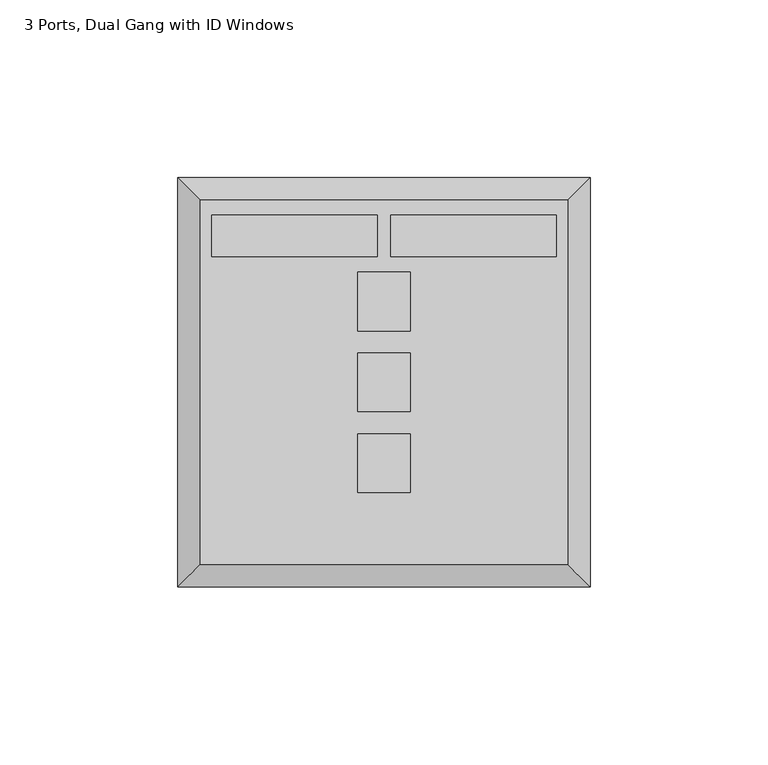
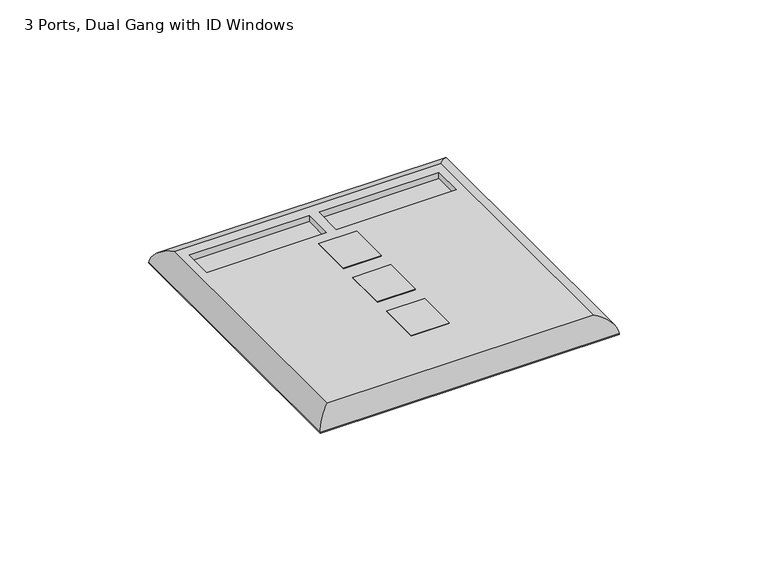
"""IFC4 building model written with IfcOpenShell, lengths in millimetres: electric appliance geometry, Data_Device-Work_Area-Leviton-QuickPort-Wallplate : 3 Ports, Dual Gang with ID Windows."""

from ifc_helpers import new_model, si_unit, frame, origin, origin_with_axes, place, context, project, spatial, polyline, ellipse_curve, outline, extrude, source, transform, mapped, element, save
from ifc_brep_helpers import plane_surface, cylinder_surface, advanced_brep


def electric_appliance_3_ports_dual_gang_with_id_windows_805037b5(model_context):
    return source(origin(), model_context, "Body", "SolidModel", [
        extrude(outline(polyline([(-15.6591, 16.4465), (-15.6591, -0.0635), (-30.3911, -0.0635), (-30.3911, 16.4465), (-15.6591, 16.4465)])), origin_with_axes(), (0.0, 0.0, 1.0), 6.35),
        extrude(outline(polyline([(-15.6591, 39.1795), (-15.6591, 22.6695), (-30.3911, 22.6695), (-30.3911, 39.1795), (-15.6591, 39.1795)])), origin_with_axes(), (0.0, 0.0, 1.0), 6.35),
        extrude(outline(polyline([(-15.6591, -6.2865), (-15.6591, -22.7965), (-30.3911, -22.7965), (-30.3911, -6.2865), (-15.6591, -6.2865)])), origin_with_axes(), (0.0, 0.0, 1.0), 6.35),
        advanced_brep(
        [(28.575, -42.9895, 6.35), (28.575, 59.3725, 6.35), (-74.6252, 59.3725, 6.35), (-74.6252, -42.9895, 6.35), (-71.44004, 55.1815, 6.35), (-24.95804, 55.1815, 6.35), (-24.95804, 43.4975, 6.35), (-71.44004, 43.4975, 6.35), (-21.09216, 43.4975, 6.35), (-21.09216, 55.1815, 6.35), (25.38984, 55.1815, 6.35), (25.38984, 43.4975, 6.35), (-30.3911, 39.1795, 6.35), (-15.6591, 39.1795, 6.35), (-15.6591, 22.6695, 6.35), (-30.3911, 22.6695, 6.35), (-30.3911, 16.4465, 6.35), (-15.6591, 16.4465, 6.35), (-15.6591, -0.0635, 6.35), (-30.3911, -0.0635, 6.35), (-30.3911, -6.2865, 6.35), (-15.6591, -6.2865, 6.35), (-15.6591, -22.7965, 6.35), (-30.3911, -22.7965, 6.35), (34.925, 65.7225, 0.0), (34.925, -49.3395, 0.0), (-80.9752, -49.3395, 0.0), (-80.9752, 65.7225, 0.0), (-15.6591, 39.1795, 0.0), (-30.3911, 39.1795, 0.0), (-30.3911, 22.6695, 0.0), (-15.6591, 22.6695, 0.0), (-15.6591, 16.4465, 0.0), (-30.3911, 16.4465, 0.0), (-30.3911, -0.0635, 0.0), (-15.6591, -0.0635, 0.0), (-15.6591, -6.2865, 0.0), (-30.3911, -6.2865, 0.0), (-30.3911, -22.7965, 0.0), (-15.6591, -22.7965, 0.0), (-80.9752, 65.7225, 0.254), (34.925, 65.7225, 0.254), (-80.9752, -49.3395, 0.254), (34.925, -49.3395, 0.254), (-24.95804, 55.1815, 3.81), (-71.44004, 55.1815, 3.81), (-71.44004, 43.4975, 3.81), (-24.95804, 43.4975, 3.81), (-21.09216, 55.1815, 3.81), (-21.09216, 43.4975, 3.81), (25.38984, 43.4975, 3.81), (25.38984, 55.1815, 3.81)],
        [
            (0, 1),
            (1, 2),
            (2, 3),
            (3, 0),
            (4, 5),
            (5, 6),
            (6, 7),
            (7, 4),
            (8, 9),
            (9, 10),
            (10, 11),
            (11, 8),
            (12, 13),
            (13, 14),
            (14, 15),
            (15, 12),
            (16, 17),
            (17, 18),
            (18, 19),
            (19, 16),
            (20, 21),
            (21, 22),
            (22, 23),
            (23, 20),
            (24, 25),
            (25, 26),
            (26, 27),
            (27, 24),
            (28, 29),
            (29, 30),
            (30, 31),
            (31, 28),
            (32, 33),
            (33, 34),
            (34, 35),
            (35, 32),
            (36, 37),
            (37, 38),
            (38, 39),
            (39, 36),
            (27, 40),
            (40, 41),
            (41, 24),
            (26, 42),
            (42, 40),
            (25, 43),
            (43, 42),
            (41, 43),
            (44, 45),
            (45, 46),
            (46, 47),
            (47, 44),
            (48, 49),
            (49, 50),
            (50, 51),
            (51, 48),
            (44, 5),
            (4, 45),
            (7, 46),
            (6, 47),
            (48, 9),
            (8, 49),
            (11, 50),
            (10, 51),
            (12, 29),
            (28, 13),
            (15, 30),
            (14, 31),
            (16, 33),
            (32, 17),
            (19, 34),
            (18, 35),
            (20, 37),
            (36, 21),
            (23, 38),
            (22, 39),
            (0, 43, ellipse_curve(frame((28.575, -42.9895, -0.0052917), z_axis=(0.7071067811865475, 0.7071067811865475, 0.0), x_axis=(0.7071067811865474, -0.7071067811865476, 0.0)), 8.9877397, 6.3552917)),
            (41, 1, ellipse_curve(frame((28.575, 59.3725, -0.0052917), z_axis=(0.7071067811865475, -0.7071067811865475, 0.0), x_axis=(-0.7071067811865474, -0.7071067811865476, 0.0)), 8.9877397, 6.3552917)),
            (3, 42, ellipse_curve(frame((-74.6252, -42.9895, -0.0052917), z_axis=(0.7071067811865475, -0.7071067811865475, 0.0), x_axis=(-0.7071067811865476, -0.7071067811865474, 0.0)), 8.9877397, 6.3552917)),
            (2, 40, ellipse_curve(frame((-74.6252, 59.3725, -0.0052917), z_axis=(-0.7071067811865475, -0.7071067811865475, 0.0), x_axis=(-0.7071067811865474, 0.7071067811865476, 0.0)), 8.9877397, 6.3552917)),
        ],
        [
            plane_surface(frame((-80.9752, 65.7225, 6.35), z_axis=(0.0, 0.0, 1.0), x_axis=(-1.0, 0.0, 0.0))),
            plane_surface(frame((-80.9752, 65.7225, 0.0), z_axis=(0.0, 0.0, -1.0), x_axis=(1.0, 0.0, 0.0))),
            plane_surface(frame((34.925, 65.7225, 6.35), z_axis=(0.0, 1.0, 0.0), x_axis=(0.0, 0.0, -1.0))),
            plane_surface(frame((-80.9752, 65.7225, 6.35), z_axis=(-1.0, 0.0, 0.0), x_axis=(0.0, 0.0, -1.0))),
            plane_surface(frame((-80.9752, -49.3395, 6.35), z_axis=(0.0, -1.0, 0.0), x_axis=(0.0, 0.0, -1.0))),
            plane_surface(frame((34.925, -49.3395, 6.35), z_axis=(1.0, 0.0, 0.0), x_axis=(0.0, 0.0, -1.0))),
            plane_surface(frame((-71.44004, 55.1815, 3.81), z_axis=(0.0, 0.0, 1.0), x_axis=(1.0, 0.0, 0.0))),
            plane_surface(frame((-24.95804, 55.1815, 6.35), z_axis=(0.0, -1.0, 0.0), x_axis=(0.0, 0.0, -1.0))),
            plane_surface(frame((-71.44004, 55.1815, 6.35), z_axis=(1.0, 0.0, 0.0), x_axis=(0.0, 0.0, -1.0))),
            plane_surface(frame((-71.44004, 43.4975, 6.35), z_axis=(0.0, 1.0, 0.0), x_axis=(0.0, 0.0, -1.0))),
            plane_surface(frame((-24.95804, 43.4975, 6.35), z_axis=(-1.0, 0.0, 0.0), x_axis=(0.0, 0.0, -1.0))),
            plane_surface(frame((-21.09216, 55.1815, 6.35), z_axis=(1.0, 0.0, 0.0), x_axis=(0.0, 0.0, -1.0))),
            plane_surface(frame((-21.09216, 43.4975, 6.35), z_axis=(0.0, 1.0, 0.0), x_axis=(0.0, 0.0, -1.0))),
            plane_surface(frame((25.38984, 43.4975, 6.35), z_axis=(-1.0, 0.0, 0.0), x_axis=(0.0, 0.0, -1.0))),
            plane_surface(frame((25.38984, 55.1815, 6.35), z_axis=(0.0, -1.0, 0.0), x_axis=(0.0, 0.0, -1.0))),
            plane_surface(frame((-15.6591, 39.1795, 6.35), z_axis=(0.0, -1.0, 0.0), x_axis=(0.0, 0.0, -1.0))),
            plane_surface(frame((-30.3911, 39.1795, 6.35), z_axis=(1.0, 0.0, 0.0), x_axis=(0.0, 0.0, -1.0))),
            plane_surface(frame((-30.3911, 22.6695, 6.35), z_axis=(0.0, 1.0, 0.0), x_axis=(0.0, 0.0, -1.0))),
            plane_surface(frame((-15.6591, 22.6695, 6.35), z_axis=(-1.0, 0.0, 0.0), x_axis=(0.0, 0.0, -1.0))),
            plane_surface(frame((-15.6591, 16.4465, 6.35), z_axis=(0.0, -1.0, 0.0), x_axis=(0.0, 0.0, -1.0))),
            plane_surface(frame((-30.3911, 16.4465, 6.35), z_axis=(1.0, 0.0, 0.0), x_axis=(0.0, 0.0, -1.0))),
            plane_surface(frame((-30.3911, -0.0635, 6.35), z_axis=(0.0, 1.0, 0.0), x_axis=(0.0, 0.0, -1.0))),
            plane_surface(frame((-15.6591, -0.0635, 6.35), z_axis=(-1.0, 0.0, 0.0), x_axis=(0.0, 0.0, -1.0))),
            plane_surface(frame((-15.6591, -6.2865, 6.35), z_axis=(0.0, -1.0, 0.0), x_axis=(0.0, 0.0, -1.0))),
            plane_surface(frame((-30.3911, -6.2865, 6.35), z_axis=(1.0, 0.0, 0.0), x_axis=(0.0, 0.0, -1.0))),
            plane_surface(frame((-30.3911, -22.7965, 6.35), z_axis=(0.0, 1.0, 0.0), x_axis=(0.0, 0.0, -1.0))),
            plane_surface(frame((-15.6591, -22.7965, 6.35), z_axis=(-1.0, 0.0, 0.0), x_axis=(0.0, 0.0, -1.0))),
            cylinder_surface(frame((28.575, 65.7225, -0.0052917), z_axis=(0.0, -1.0, 0.0), x_axis=(1.0, 0.0, 0.0)), 6.3552917),
            cylinder_surface(frame((34.925, -42.9895, -0.0052917), z_axis=(-1.0, 0.0, 0.0), x_axis=(0.0, -1.0, 0.0)), 6.3552917),
            cylinder_surface(frame((-74.6252, -49.3395, -0.0052917), z_axis=(0.0, 1.0, 0.0), x_axis=(-1.0, 0.0, 0.0)), 6.3552917),
            cylinder_surface(frame((-80.9752, 59.3725, -0.0052917), z_axis=(1.0, 0.0, 0.0), x_axis=(0.0, 1.0, 0.0)), 6.3552917),
        ],
        [
            (0, [[1, 2, 3, 4], [5, 6, 7, 8], [9, 10, 11, 12], [13, 14, 15, 16], [17, 18, 19, 20], [21, 22, 23, 24]]),
            (1, [[25, 26, 27, 28], [29, 30, 31, 32], [33, 34, 35, 36], [37, 38, 39, 40]]),
            (2, [[-28, 41, 42, 43]]),
            (3, [[-27, 44, 45, -41]]),
            (4, [[-26, 46, 47, -44]]),
            (5, [[-25, -43, 48, -46]]),
            (6, [[49, 50, 51, 52]]),
            (6, [[53, 54, 55, 56]]),
            (7, [[-49, 57, -5, 58]]),
            (8, [[-50, -58, -8, 59]]),
            (9, [[-51, -59, -7, 60]]),
            (10, [[-52, -60, -6, -57]]),
            (11, [[-53, 61, -9, 62]]),
            (12, [[-54, -62, -12, 63]]),
            (13, [[-55, -63, -11, 64]]),
            (14, [[-56, -64, -10, -61]]),
            (15, [[65, -29, 66, -13]]),
            (16, [[-65, -16, 67, -30]]),
            (17, [[-67, -15, 68, -31]]),
            (18, [[-66, -32, -68, -14]]),
            (19, [[69, -33, 70, -17]]),
            (20, [[-69, -20, 71, -34]]),
            (21, [[-71, -19, 72, -35]]),
            (22, [[-70, -36, -72, -18]]),
            (23, [[73, -37, 74, -21]]),
            (24, [[-73, -24, 75, -38]]),
            (25, [[-75, -23, 76, -39]]),
            (26, [[-74, -40, -76, -22]]),
            (27, [[77, -48, 78, -1]]),
            (28, [[-77, -4, 79, -47]]),
            (29, [[-79, -3, 80, -45]]),
            (30, [[-78, -42, -80, -2]]),
        ],
    ),
        extrude(outline(polyline([(34.671, 65.4685), (34.671, -49.0855), (-80.7212, -49.0855), (-80.7212, 65.4685), (34.671, 65.4685)]), holes=[polyline([(-15.6591, 39.1795), (-30.3911, 39.1795), (-30.3911, 22.6695), (-15.6591, 22.6695), (-15.6591, 39.1795)]), polyline([(-15.6591, 16.4465), (-30.3911, 16.4465), (-30.3911, -0.0635), (-15.6591, -0.0635), (-15.6591, 16.4465)]), polyline([(-15.6591, -6.2865), (-30.3911, -6.2865), (-30.3911, -22.7965), (-15.6591, -22.7965), (-15.6591, -6.2865)])]), origin_with_axes(), (0.0, 0.0, 1.0), 0.254),
    ])


if __name__ == "__main__":
    model = new_model("IFC4")
    model_context = context("Model", 3, world=origin())
    ifc_project = project(units=[si_unit("LENGTHUNIT", "METRE", prefix="MILLI")], contexts=[model_context])
    site = spatial("IfcSite", under=ifc_project)
    building = spatial("IfcBuilding", under=site)
    placement = place(None, origin())
    electric_appliance_3_ports_dual_gang_with_id_windows_shape = electric_appliance_3_ports_dual_gang_with_id_windows_805037b5(model_context)
    element("IfcElectricAppliance", 1, ObjectType="Data_Device-Work_Area-Leviton-QuickPort-Wallplate : 3 Ports, Dual Gang with ID Windows", at=placement, inside=building, context=model_context, shape_type="MappedRepresentation", body=[
        mapped(electric_appliance_3_ports_dual_gang_with_id_windows_shape, transform((0.0, 0.0, 0.0), x_axis=(1.0, 0.0, 0.0), y_axis=(0.0, 1.0, 0.0), z_axis=(0.0, 0.0, 1.0))),
    ])
    save(model, "model.ifc")
